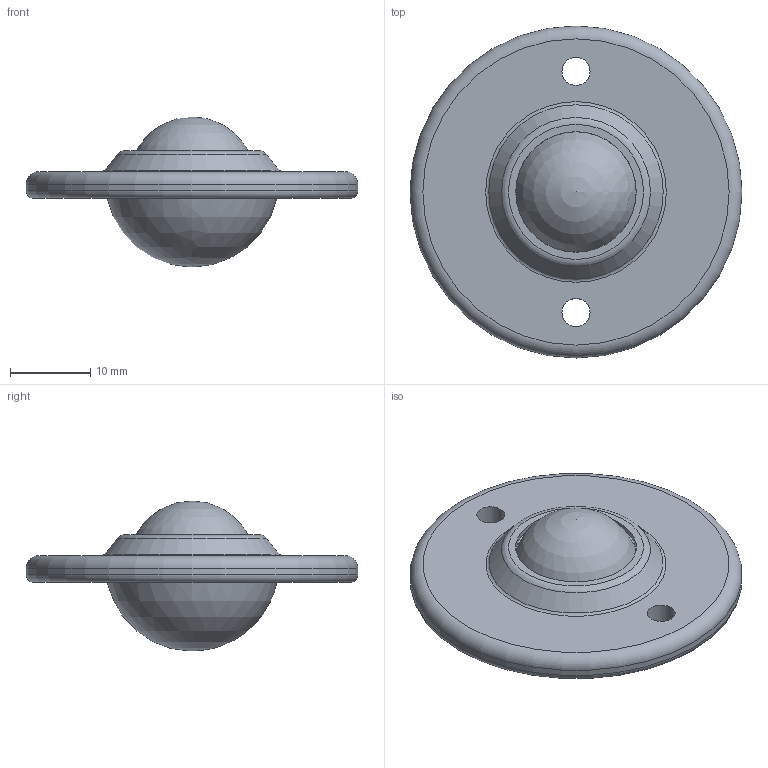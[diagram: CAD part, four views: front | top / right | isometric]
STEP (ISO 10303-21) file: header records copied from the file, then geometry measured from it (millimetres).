
FILE_DESCRIPTION(/* description */ (''),/* implementation_level */ '2;1');
FILE_NAME(/* name */ 'Z:\80-CAD共有ファイル\製品3D\X2\30C730FC30BF\X0\\33-US\US-16.stp',/* time_stamp */ '2015-01-06T16:20:47+09:00',/* author */ ('yamaki'),/* organization */ (''),/* preprocessor_version */ 'ST-DEVELOPER v15.6',/* originating_system */ 'Autodesk Inventor 2015',/* authorisation */ '');
FILE_SCHEMA (('AUTOMOTIVE_DESIGN { 1 0 10303 214 3 1 1 }'));
Length unit declared in the file: millimetre
Products named in the file (1): 3316AA
Bounding box: 41.31 x 41.31 x 18.66 mm (x, y, z)
Volume: 7254.9 mm3; surface area: 3475.8 mm2
Topology: 1 solids, 1 shells, 19 faces, 40 edges, 26 vertices
Faces by surface type: cylinder 6, plane 5, torus 4, sphere 3, cone 1
Full cylindrical faces by diameter (mm): 0.5 x1, 3.5 x2, 15 x1, 15.692 x1, 41.31 x1
Entity records: 426 total; most frequent: DIRECTION 80, CARTESIAN_POINT 60, EDGE_LOOP 40, ORIENTED_EDGE 40, AXIS2_PLACEMENT_3D 40, FACE_BOUND 21, CIRCLE 20, VERTEX_POINT 20
